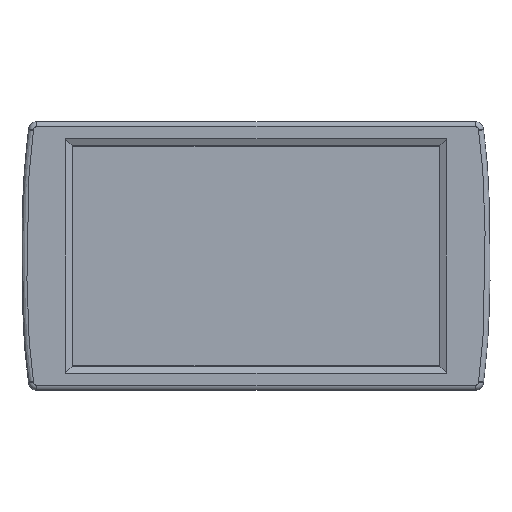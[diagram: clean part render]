
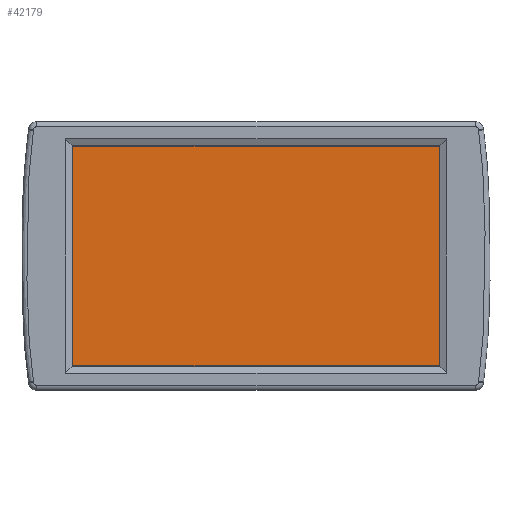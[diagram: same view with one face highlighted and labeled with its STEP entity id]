
A CAD part, front view. The second image highlights one B-rep face of the part: STEP entity #42179.
In plain terms, the highlighted planar face has unit normal (0, -1, 0).
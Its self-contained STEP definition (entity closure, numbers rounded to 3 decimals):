
#344 = VECTOR ( 'NONE', #46546, 1000. ) ;
#2964 = VERTEX_POINT ( 'NONE', #120403 ) ;
#6908 = EDGE_CURVE ( 'NONE', #2964, #101490, #32072, .T. ) ;
#13310 = CARTESIAN_POINT ( 'NONE',  ( 121.4, 0.1, -70. ) ) ;
#17929 = ORIENTED_EDGE ( 'NONE', *, *, #6908, .T. ) ;
#20725 = LINE ( 'NONE', #13310, #130870 ) ;
#30625 = EDGE_CURVE ( 'NONE', #101490, #135714, #74983, .T. ) ;
#32072 = LINE ( 'NONE', #130991, #344 ) ;
#42179 = ADVANCED_FACE ( 'NONE', ( #74423 ), #80905, .T. ) ;
#42986 = CARTESIAN_POINT ( 'NONE',  ( 121.4, 0.1, 63. ) ) ;
#46546 = DIRECTION ( 'NONE',  ( 0., 0., -1. ) ) ;
#46603 = VECTOR ( 'NONE', #132660, 1000. ) ;
#55196 = DIRECTION ( 'NONE',  ( -1., 0., 0. ) ) ;
#59855 = CARTESIAN_POINT ( 'NONE',  ( 9.2, 0.1, -1.5 ) ) ;
#59967 = ORIENTED_EDGE ( 'NONE', *, *, #30625, .T. ) ;
#62951 = VERTEX_POINT ( 'NONE', #42986 ) ;
#70594 = DIRECTION ( 'NONE',  ( 0., 0., 1. ) ) ;
#73344 = EDGE_CURVE ( 'NONE', #62951, #2964, #87351, .T. ) ;
#74423 = FACE_OUTER_BOUND ( 'NONE', #91704, .T. ) ;
#74983 = LINE ( 'NONE', #100527, #46603 ) ;
#77482 = EDGE_CURVE ( 'NONE', #135714, #62951, #20725, .T. ) ;
#80905 = PLANE ( 'NONE',  #104494 ) ;
#81038 = CARTESIAN_POINT ( 'NONE',  ( 121.4, 0.1, -70. ) ) ;
#82621 = CARTESIAN_POINT ( 'NONE',  ( -101.2, 0.1, -70. ) ) ;
#87351 = LINE ( 'NONE', #119198, #112407 ) ;
#91704 = EDGE_LOOP ( 'NONE', ( #134759, #17929, #59967, #122248 ) ) ;
#98696 = DIRECTION ( 'NONE',  ( 0., 0., 1. ) ) ;
#100527 = CARTESIAN_POINT ( 'NONE',  ( -101.2, 0.1, -70. ) ) ;
#101490 = VERTEX_POINT ( 'NONE', #82621 ) ;
#104494 = AXIS2_PLACEMENT_3D ( 'NONE', #59855, #134509, #70594 ) ;
#112407 = VECTOR ( 'NONE', #55196, 1000. ) ;
#119198 = CARTESIAN_POINT ( 'NONE',  ( -101.2, 0.1, 63. ) ) ;
#120403 = CARTESIAN_POINT ( 'NONE',  ( -101.2, 0.1, 63. ) ) ;
#122248 = ORIENTED_EDGE ( 'NONE', *, *, #77482, .T. ) ;
#130870 = VECTOR ( 'NONE', #98696, 1000. ) ;
#130991 = CARTESIAN_POINT ( 'NONE',  ( -101.2, 0.1, -70. ) ) ;
#132660 = DIRECTION ( 'NONE',  ( 1., 0., 0. ) ) ;
#134509 = DIRECTION ( 'NONE',  ( 0., -1., 0. ) ) ;
#134759 = ORIENTED_EDGE ( 'NONE', *, *, #73344, .T. ) ;
#135714 = VERTEX_POINT ( 'NONE', #81038 ) ;
